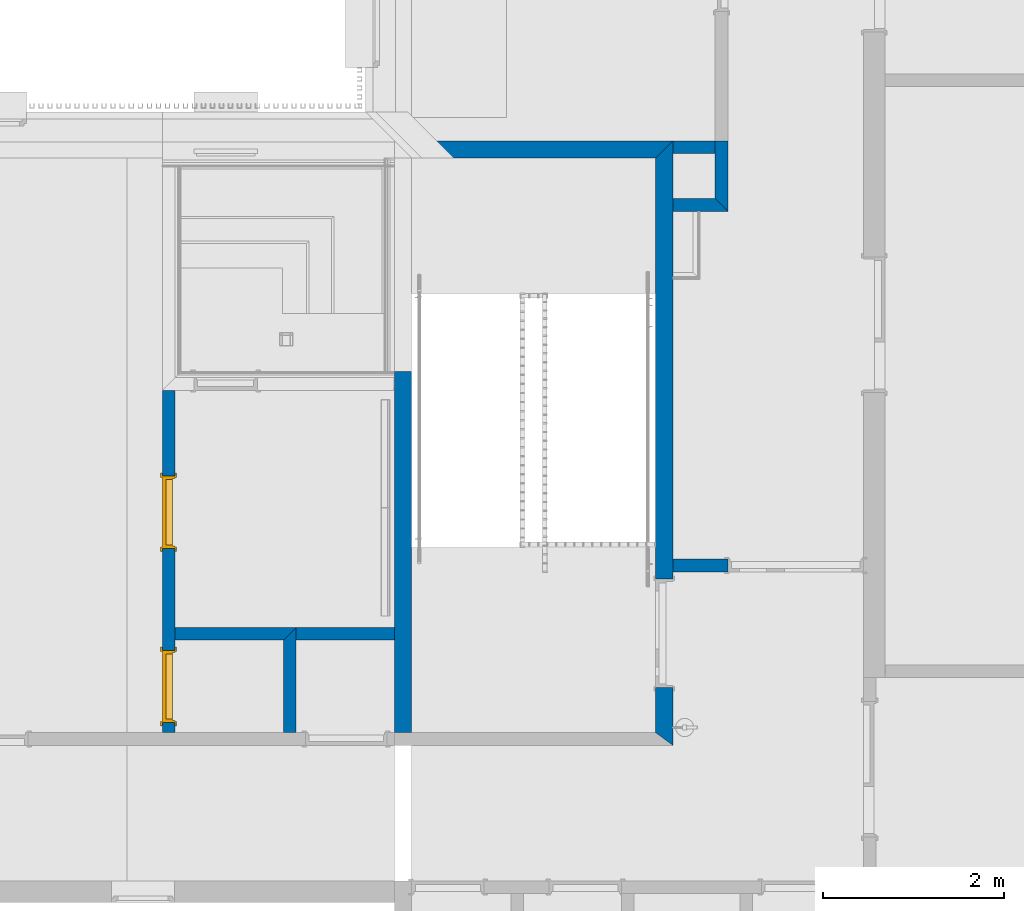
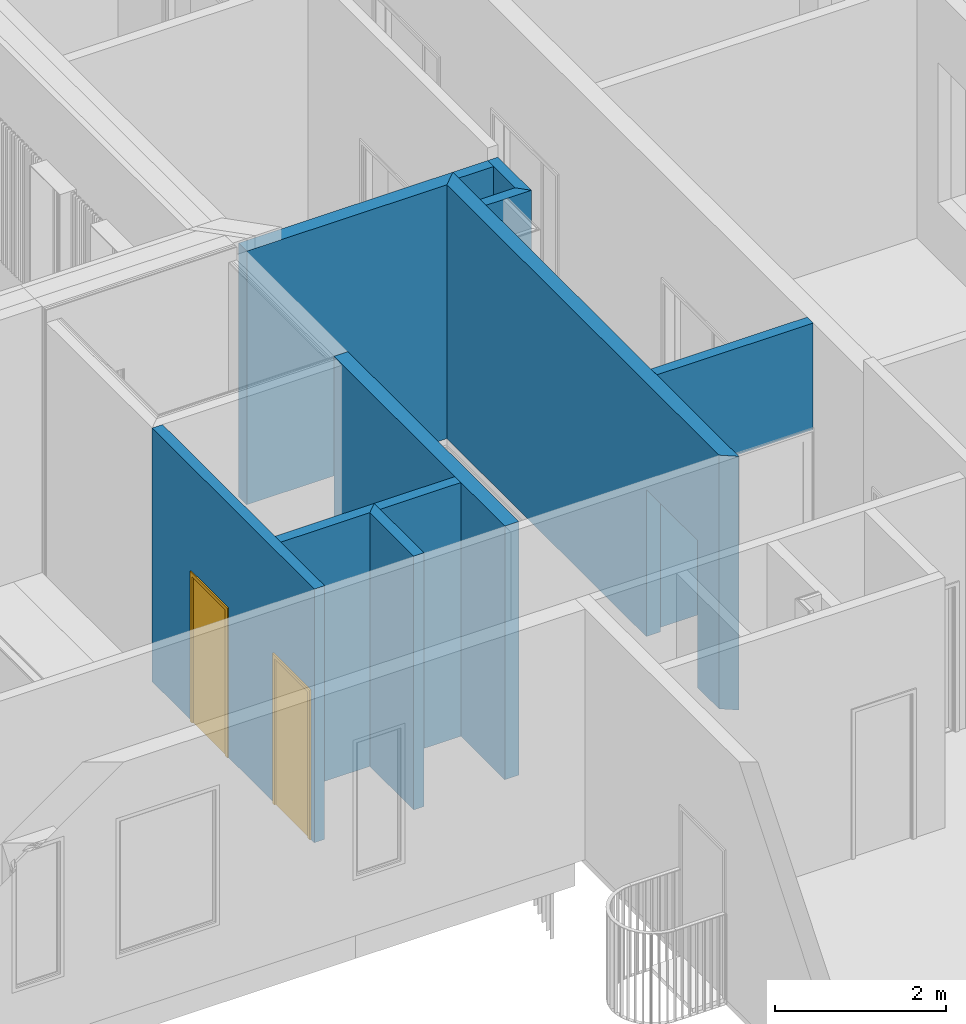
# One storey, part 11 of 100: 11 walls, 2 doors, 4 openings.
"""IFC2X3 building model written with IfcOpenShell, lengths in millimetres."""

from ifc_helpers import new_model, entity, si_unit, converted_unit, derived_unit, money_unit, direction, frame, origin_with_axes, origin_2d_with_axis, place, context, subcontext, project, spatial, polyline, rectangle, outline, extrude, faceted_brep, source, transform, mapped, material, layer, layer_set, layer_usage, type_object, element, fill, save


model = new_model("IFC2X3")

# Units and contexts
model_context = context("Model", 3, precision=0.01, world=origin_with_axes(), true_north=direction((0.0, 1.0)))
body_context = subcontext(model_context, "Body", "Model", "MODEL_VIEW")
ifc_project = project(units=[si_unit("LENGTHUNIT", "METRE", prefix="MILLI"), si_unit("AREAUNIT", "SQUARE_METRE"), si_unit("VOLUMEUNIT", "CUBIC_METRE"), converted_unit("PLANEANGLEUNIT", "DEGREE", entity("IfcPlaneAngleMeasure", 0.0174532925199), si_unit("PLANEANGLEUNIT", "RADIAN"), dimensions=[0, 0, 0, 0, 0, 0, 0]), si_unit("SOLIDANGLEUNIT", "STERADIAN"), money_unit("EUR"), converted_unit("TIMEUNIT", "Year", entity("IfcTimeMeasure", 31556926.0), si_unit("TIMEUNIT", "SECOND"), dimensions=[0, 0, 1, 0, 0, 0, 0]), si_unit("MASSUNIT", "GRAM", prefix="KILO"), si_unit("THERMODYNAMICTEMPERATUREUNIT", "DEGREE_CELSIUS"), si_unit("LUMINOUSINTENSITYUNIT", "LUMEN"), si_unit("ENERGYUNIT", "JOULE", prefix="MEGA"), derived_unit("THERMALCONDUCTANCEUNIT", [(si_unit("POWERUNIT", "WATT"), 1), (si_unit("LENGTHUNIT", "METRE"), -1), (si_unit("THERMODYNAMICTEMPERATUREUNIT", "KELVIN"), -1)]), derived_unit("SPECIFICHEATCAPACITYUNIT", [(si_unit("ENERGYUNIT", "JOULE"), 1), (si_unit("MASSUNIT", "GRAM", prefix="KILO"), -1), (si_unit("THERMODYNAMICTEMPERATUREUNIT", "KELVIN"), -1)]), derived_unit("MASSDENSITYUNIT", [(si_unit("MASSUNIT", "GRAM", prefix="KILO"), 1), (si_unit("VOLUMEUNIT", "CUBIC_METRE"), -1)])], contexts=[model_context])

# Site, building, storey
site_placement = place(None, origin_with_axes())
site = spatial("IfcSite", under=ifc_project, at=site_placement, Name="Politse- ja Piirivalveameti ning Päästeameti ühishoone", CompositionType="ELEMENT")
building_placement = place(site_placement, origin_with_axes())
building = spatial("IfcBuilding", under=site, at=building_placement, Name="Politse- ja Piirivalveameti ning Päästeameti ühishoone", CompositionType="ELEMENT")
storey_placement = place(building_placement, frame((0.0, 0.0, 3800.0), z_axis=(0.0, 0.0, 1.0), x_axis=(1.0, 0.0, 0.0)))
storey = spatial("IfcBuildingStorey", under=building, at=storey_placement, Name="Teine korrus", CompositionType="ELEMENT", Elevation=3800.0)

# Wall, opening
ifc_material = material(Name="KON-05_Betoon Plokk - Konstuktsioon")
ifc_layer_1 = layer(ifc_material, 190.0, ventilated="UNKNOWN")
ifc_layer_set_1 = layer_set([ifc_layer_1], Name="SS-03_Sisesein 190")
ifc_layer_usage_1 = layer_usage(ifc_layer_set_1, "AXIS2", "POSITIVE", 0.0)
wall_type_1 = type_object("IfcWallType", Name="SS-03_Sisesein 190 190", PredefinedType="NOTDEFINED")
wall_1_placement = place(storey_placement, frame((63050.557259, 14500.0421528, 0.0), z_axis=(0.0, 0.0, 1.0), x_axis=(0.0, 1.0, 0.0)))
wall_1 = element("IfcWallStandardCase", 1, at=wall_1_placement, inside=storey, type_object=wall_type_1, material=ifc_layer_usage_1, Name="SS-03", context=body_context, shape_type="SweptSolid", body=[
    extrude(outline(polyline([(0.0, 0.0), (6689.9099304, 0.0), (6499.9099304, 190.0), (140.0, 190.0), (0.0, 0.0)])), origin_with_axes(), (0.0, 0.0, 1.0), 3620.0),
])
opening_1_placement = place(wall_1_placement, frame((1238.63263105, 0.0, 0.0), z_axis=(0.0, 0.0, 1.0), x_axis=(1.0, 0.0, 0.0)))
element("IfcOpeningElement", 2, at=opening_1_placement, cuts=wall_1, Name="TU-01-4", context=body_context, shape_type="SweptSolid", body=[
    extrude(rectangle(XDim=1200.0, YDim=2100.0, at=origin_2d_with_axis()), frame((0.0, -190.0, 1050.0), z_axis=(0.0, -1.0, 0.0), x_axis=(-1.0, 0.0, 0.0)), (0.0, 0.0, -1.0), 570.0),
    extrude(rectangle(XDim=1274.0, YDim=2137.0, at=origin_2d_with_axis()), frame((0.0, 0.0, 1068.5), z_axis=(0.0, -1.0, 0.0), x_axis=(-1.0, 0.0, 0.0)), (0.0, 0.0, 1.0), 190.0),
    extrude(rectangle(XDim=1274.0, YDim=2137.0, at=origin_2d_with_axis()), frame((0.0, 190.0, 1068.5), z_axis=(0.0, 1.0, 0.0), x_axis=(-1.0, 0.0, 0.0)), (0.0, 0.0, 1.0), 190.0),
])

# Walls
ifc_layer_usage_2 = layer_usage(ifc_layer_set_1, "AXIS2", "POSITIVE", 0.0)
wall_2_placement = place(storey_placement, frame((60160.5519118, 20999.9520832, 0.0), z_axis=(0.0, 0.0, 1.0), x_axis=(1.0, 0.0, 0.0)))
element("IfcWallStandardCase", 3, at=wall_2_placement, inside=storey, type_object=wall_type_1, material=ifc_layer_usage_2, Name="SS-03", context=body_context, shape_type="SweptSolid", body=[
    extrude(outline(polyline([(0.0, 0.0), (2700.00534722, 0.0), (2890.00534722, 190.0), (0.0, 190.0), (0.0, 0.0)])), origin_with_axes(), (0.0, 0.0, 1.0), 3620.0),
])
ifc_layer_usage_3 = layer_usage(ifc_layer_set_1, "AXIS2", "POSITIVE", -190.0)
wall_3_placement = place(storey_placement, frame((60160.5519118, 18635.0421528, 0.0), z_axis=(0.0, 0.0, 1.0), x_axis=(0.0, -1.0, 0.0)))
element("IfcWallStandardCase", 4, at=wall_3_placement, inside=storey, type_object=wall_type_1, material=ifc_layer_usage_3, Name="SS-03", context=body_context, shape_type="SweptSolid", body=[
    extrude(outline(polyline([(0.0, -190.0), (3995.0, -190.0), (3995.0, 0.0), (0.0, 0.0), (0.0, -190.0)])), origin_with_axes(), (0.0, 0.0, 1.0), 3620.0),
])
ifc_layer_2 = layer(ifc_material, 140.0, ventilated="UNKNOWN")
ifc_layer_set_2 = layer_set([ifc_layer_2], Name="SS-02_Sisesein 140")
ifc_layer_usage_4 = layer_usage(ifc_layer_set_2, "AXIS2", "POSITIVE", 0.0)
wall_type_2 = type_object("IfcWallType", Name="SS-02_Sisesein 140 140", PredefinedType="NOTDEFINED")
wall_4_placement = place(storey_placement, frame((57540.6681388, 15664.418535, 0.0), z_axis=(0.0, 0.0, 1.0), x_axis=(0.9999999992, 4.00006399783e-05, 0.0)))
element("IfcWallStandardCase", 5, at=wall_4_placement, inside=storey, type_object=wall_type_2, material=ifc_layer_usage_4, Name="SS-02", context=body_context, shape_type="SweptSolid", body=[
    extrude(outline(polyline([(0.0, 0.0), (1199.93754673, 0.0), (1339.94961249, 140.0), (0.0, 140.0), (0.0, 0.0)])), origin_with_axes(), (0.0, 0.0, 1.0), 3620.0),
])
ifc_layer_usage_5 = layer_usage(ifc_layer_set_2, "AXIS2", "POSITIVE", 0.0)
wall_5_placement = place(storey_placement, frame((58740.6056845, 15664.4665333, 0.0), z_axis=(0.0, 0.0, 1.0), x_axis=(-4.61796624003e-05, -0.999999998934, 0.0)))
element("IfcWallStandardCase", 6, at=wall_5_placement, inside=storey, type_object=wall_type_2, material=ifc_layer_usage_5, Name="SS-02", context=body_context, shape_type="SweptSolid", body=[
    extrude(outline(polyline([(0.0, 0.0), (1024.4243816, 0.0), (1024.41791645, 140.0), (-140.012065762, 140.0), (0.0, 0.0)])), origin_with_axes(), (0.0, 0.0, 1.0), 3620.0),
])
ifc_layer_usage_6 = layer_usage(ifc_layer_set_2, "AXIS2", "POSITIVE", 0.0)
wall_6_placement = place(storey_placement, frame((63660.557259, 20409.9520832, 0.0), z_axis=(0.0, 0.0, 1.0), x_axis=(0.0, 1.0, 0.0)))
element("IfcWallStandardCase", 7, at=wall_6_placement, inside=storey, type_object=wall_type_2, material=ifc_layer_usage_6, Name="SS-02", context=body_context, shape_type="SweptSolid", body=[
    extrude(outline(polyline([(0.0, 0.0), (780.0, 0.0), (780.0, 140.0), (140.0, 140.0), (0.0, 0.0)])), origin_with_axes(), (0.0, 0.0, 1.0), 3620.0),
])

# Wall, opening
ifc_layer_usage_7 = layer_usage(ifc_layer_set_2, "AXIS2", "POSITIVE", 0.0)
wall_7_placement = place(storey_placement, frame((63050.557259, 16419.9520832, 0.0), z_axis=(0.0, 0.0, 1.0), x_axis=(1.0, 0.0, 0.0)))
wall_7 = element("IfcWallStandardCase", 8, at=wall_7_placement, inside=storey, type_object=wall_type_2, material=ifc_layer_usage_7, Name="SS-02", context=body_context, shape_type="SweptSolid", body=[
    extrude(outline(polyline([(0.0, 0.0), (2110.00229167, 0.0), (2110.00229167, 140.0), (0.0, 140.0), (0.0, 0.0)])), origin_with_axes(), (0.0, 0.0, 1.0), 3620.0),
])
opening_2_placement = place(wall_7_placement, frame((1360.00229167, 0.0, 0.0), z_axis=(0.0, 0.0, 1.0), x_axis=(1.0, 0.0, 0.0)))
element("IfcOpeningElement", 9, at=opening_2_placement, cuts=wall_7, Name="SU-01-9", context=body_context, shape_type="SweptSolid", body=[
    extrude(rectangle(XDim=1500.0, YDim=2100.0, at=origin_2d_with_axis()), frame((0.0, 140.0, 1050.0), z_axis=(0.0, -1.0, 0.0), x_axis=(-1.0, 0.0, 0.0)), (0.0, 0.0, 1.0), 420.0),
    extrude(rectangle(XDim=1574.0, YDim=2137.0, at=origin_2d_with_axis()), frame((0.0, 140.0, 1068.5), z_axis=(0.0, -1.0, 0.0), x_axis=(-1.0, 0.0, 0.0)), (0.0, 0.0, -1.0), 140.0),
    extrude(rectangle(XDim=1574.0, YDim=2137.0, at=origin_2d_with_axis()), frame((0.0, 0.0, 1068.5), z_axis=(0.0, 1.0, 0.0), x_axis=(-1.0, 0.0, 0.0)), (0.0, 0.0, -1.0), 140.0),
])

# Walls
ifc_layer_usage_8 = layer_usage(ifc_layer_set_2, "AXIS2", "POSITIVE", 0.0)
wall_8_placement = place(storey_placement, frame((63050.557259, 21049.9520832, 0.0), z_axis=(0.0, 0.0, 1.0), x_axis=(1.0, 0.0, 0.0)))
element("IfcWallStandardCase", 10, at=wall_8_placement, inside=storey, type_object=wall_type_2, material=ifc_layer_usage_8, Name="SS-02", context=body_context, shape_type="SweptSolid", body=[
    extrude(outline(polyline([(0.0, 0.0), (470.0, 0.0), (470.0, 140.0), (0.0, 140.0), (0.0, 0.0)])), origin_with_axes(), (0.0, 0.0, 1.0), 3620.0),
])
ifc_layer_usage_9 = layer_usage(ifc_layer_set_2, "AXIS2", "POSITIVE", 0.0)
wall_9_placement = place(storey_placement, frame((63050.557259, 20409.9520832, 0.0), z_axis=(0.0, 0.0, 1.0), x_axis=(1.0, 0.0, 0.0)))
element("IfcWallStandardCase", 11, at=wall_9_placement, inside=storey, type_object=wall_type_2, material=ifc_layer_usage_9, Name="SS-02", context=body_context, shape_type="SweptSolid", body=[
    extrude(outline(polyline([(0.0, 0.0), (610.0, 0.0), (470.0, 140.0), (0.0, 140.0), (0.0, 0.0)])), origin_with_axes(), (0.0, 0.0, 1.0), 3620.0),
])

# Wall, openings, doors
ifc_layer_usage_10 = layer_usage(ifc_layer_set_2, "AXIS2", "NEGATIVE", 0.0)
wall_10_placement = place(storey_placement, frame((57540.5575121, 18430.0421528, 0.0), z_axis=(0.0, 0.0, 1.0), x_axis=(4.000063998e-05, -0.9999999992, 0.0)))
wall_10 = element("IfcWallStandardCase", 12, at=wall_10_placement, inside=storey, type_object=wall_type_2, material=ifc_layer_usage_10, Name="SS-02", context=body_context, shape_type="SweptSolid", body=[
    extrude(outline(polyline([(-0.00560008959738, -140.0), (3789.99440294, -140.0), (3790.00000303, 0.0), (0.0, 0.0), (-0.00560008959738, -140.0)])), origin_with_axes(), (0.0, 0.0, 1.0), 3620.0),
])
opening_3_placement = place(wall_10_placement, frame((3277.80516112, 0.0, 0.0), z_axis=(0.0, 0.0, 1.0), x_axis=(1.0, 0.0, 0.0)))
opening_3 = element("IfcOpeningElement", 13, at=opening_3_placement, cuts=wall_10, Name="SU-02-1", context=body_context, shape_type="SweptSolid", body=[
    extrude(rectangle(XDim=800.0, YDim=2100.0, at=origin_2d_with_axis()), frame((0.0, 140.0, 1050.0), z_axis=(0.0, 1.0, 0.0), x_axis=(1.0, 0.0, 0.0)), (0.0, 0.0, -1.0), 420.0),
    extrude(rectangle(XDim=874.0, YDim=2137.0, at=origin_2d_with_axis()), frame((0.0, 0.0, 1068.5), z_axis=(0.0, 1.0, 0.0), x_axis=(1.0, 0.0, 0.0)), (0.0, 0.0, 1.0), 140.0),
    extrude(rectangle(XDim=874.0, YDim=2137.0, at=origin_2d_with_axis()), frame((0.0, -140.0, 1068.5), z_axis=(0.0, -1.0, 0.0), x_axis=(1.0, 0.0, 0.0)), (0.0, 0.0, 1.0), 140.0),
])
opening_4_placement = place(wall_10_placement, frame((1349.99239338, 0.0, 0.0), z_axis=(0.0, 0.0, 1.0), x_axis=(1.0, 0.0, 0.0)))
opening_4 = element("IfcOpeningElement", 14, at=opening_4_placement, cuts=wall_10, Name="SU-01-5", context=body_context, shape_type="SweptSolid", body=[
    extrude(rectangle(XDim=800.0, YDim=2100.0, at=origin_2d_with_axis()), frame((0.0, 140.0, 1050.0), z_axis=(0.0, -1.0, 0.0), x_axis=(-1.0, 0.0, 0.0)), (0.0, 0.0, 1.0), 420.0),
    extrude(rectangle(XDim=874.0, YDim=2137.0, at=origin_2d_with_axis()), frame((0.0, 0.0, 1068.5), z_axis=(0.0, -1.0, 0.0), x_axis=(-1.0, 0.0, 0.0)), (0.0, 0.0, -1.0), 140.0),
    extrude(rectangle(XDim=874.0, YDim=2137.0, at=origin_2d_with_axis()), frame((0.0, -140.0, 1068.5), z_axis=(0.0, 1.0, 0.0), x_axis=(-1.0, 0.0, 0.0)), (0.0, 0.0, -1.0), 140.0),
])
door_style_1 = type_object("IfcDoorStyle", Name="Door 23", ConstructionType="NOTDEFINED", OperationType="SINGLE_SWING_RIGHT", ParameterTakesPrecedence=False, Sizeable=False)
shared_shape_1 = source(origin_with_axes(), body_context, "Body", "Brep", [
    faceted_brep([(372.0, -40.0, 0.0), (372.0, -40.0, 12.0), (360.0, -40.0, 12.0), (360.0, -40.0, 0.0), (-372.0, -40.0, 0.0), (-372.0, -40.0, 12.0), (-360.0, -40.0, 12.0), (-360.0, -115.0, 12.0), (360.0, -115.0, 12.0), (360.0, -115.0, 0.0), (-360.0, -115.0, 0.0), (-360.0, -40.0, 0.0)], [[[0, 1, 2, 3]], [[4, 5, 1, 0]], [[1, 5, 6, 7, 8, 2]], [[3, 2, 8, 9]], [[0, 3, 9, 10, 11, 4]], [[11, 6, 5, 4]], [[10, 7, 6, 11]], [[9, 8, 7, 10]]]),
    faceted_brep([(-400.0, -115.0, 0.0), (-375.0, -115.0, 0.0), (-375.0, -140.0, 0.0), (-400.0, -140.0, 0.0), (-400.0, -115.0, 2100.0), (-375.0, -115.0, 2075.0), (-375.0, -140.0, 2075.0), (-400.0, -140.0, 2100.0)], [[[0, 1, 2, 3]], [[0, 4, 5, 1]], [[1, 5, 6, 2]], [[3, 2, 6, 7]], [[4, 0, 3, 7]], [[5, 4, 7, 6]]]),
    faceted_brep([(400.0, -115.0, 2100.0), (375.0, -115.0, 2075.0), (375.0, -140.0, 2075.0), (400.0, -140.0, 2100.0), (400.0, -115.0, 0.0), (375.0, -115.0, 0.0), (375.0, -140.0, 0.0), (400.0, -140.0, 0.0)], [[[0, 1, 2, 3]], [[0, 4, 5, 1]], [[1, 5, 6, 2]], [[3, 2, 6, 7]], [[4, 0, 3, 7]], [[5, 4, 7, 6]]]),
    faceted_brep([(-375.0, -115.0, 2075.0), (375.0, -115.0, 2075.0), (375.0, -140.0, 2075.0), (-375.0, -140.0, 2075.0), (-400.0, -115.0, 2100.0), (400.0, -115.0, 2100.0), (400.0, -140.0, 2100.0), (-400.0, -140.0, 2100.0)], [[[0, 1, 2, 3]], [[0, 4, 5, 1]], [[1, 5, 6, 2]], [[3, 2, 6, 7]], [[4, 0, 3, 7]], [[5, 4, 7, 6]]]),
    faceted_brep([(-437.0, -159.0, 0.0), (-437.0, -140.0, 0.0), (-387.0, -140.0, 0.0), (-387.0, -159.0, 0.0), (-437.0, -159.0, 2137.0), (-437.0, -140.0, 2137.0), (-387.0, -140.0, 2087.0), (-387.0, -159.0, 2087.0)], [[[0, 1, 2, 3]], [[4, 5, 1, 0]], [[1, 5, 6, 2]], [[3, 2, 6, 7]], [[0, 3, 7, 4]], [[7, 6, 5, 4]]]),
    faceted_brep([(437.0, -159.0, 2137.0), (437.0, -140.0, 2137.0), (387.0, -140.0, 2087.0), (387.0, -159.0, 2087.0), (437.0, -159.0, 0.0), (437.0, -140.0, 0.0), (387.0, -140.0, 0.0), (387.0, -159.0, 0.0)], [[[0, 1, 2, 3]], [[4, 5, 1, 0]], [[1, 5, 6, 2]], [[3, 2, 6, 7]], [[0, 3, 7, 4]], [[7, 6, 5, 4]]]),
    faceted_brep([(-437.0, -159.0, 2137.0), (-437.0, -140.0, 2137.0), (-387.0, -140.0, 2087.0), (-387.0, -159.0, 2087.0), (437.0, -159.0, 2137.0), (437.0, -140.0, 2137.0), (387.0, -140.0, 2087.0), (387.0, -159.0, 2087.0)], [[[0, 1, 2, 3]], [[4, 5, 1, 0]], [[1, 5, 6, 2]], [[3, 2, 6, 7]], [[0, 3, 7, 4]], [[7, 6, 5, 4]]]),
    faceted_brep([(-437.0, 19.0, 0.0), (-387.0, 19.0, 0.0), (-387.0, 0.0, 0.0), (-437.0, 0.0, 0.0), (-437.0, 19.0, 2137.0), (-387.0, 19.0, 2087.0), (-387.0, 0.0, 2087.0), (-437.0, 0.0, 2137.0)], [[[0, 1, 2, 3]], [[0, 4, 5, 1]], [[1, 5, 6, 2]], [[3, 2, 6, 7]], [[4, 0, 3, 7]], [[5, 4, 7, 6]]]),
    faceted_brep([(437.0, 19.0, 2137.0), (387.0, 19.0, 2087.0), (387.0, 0.0, 2087.0), (437.0, 0.0, 2137.0), (437.0, 19.0, 0.0), (387.0, 19.0, 0.0), (387.0, 0.0, 0.0), (437.0, 0.0, 0.0)], [[[0, 1, 2, 3]], [[0, 4, 5, 1]], [[1, 5, 6, 2]], [[3, 2, 6, 7]], [[4, 0, 3, 7]], [[5, 4, 7, 6]]]),
    faceted_brep([(-437.0, 19.0, 2137.0), (-387.0, 19.0, 2087.0), (-387.0, 0.0, 2087.0), (-437.0, 0.0, 2137.0), (437.0, 19.0, 2137.0), (387.0, 19.0, 2087.0), (387.0, 0.0, 2087.0), (437.0, 0.0, 2137.0)], [[[0, 1, 2, 3]], [[0, 4, 5, 1]], [[1, 5, 6, 2]], [[3, 2, 6, 7]], [[4, 0, 3, 7]], [[5, 4, 7, 6]]]),
    faceted_brep([(-360.0, -40.0, 0.0), (-360.0, -40.0, 2060.0), (-360.0, -115.0, 2060.0), (-360.0, -115.0, 0.0), (-372.0, -40.0, 2060.0), (-372.0, -40.0, 0.0), (-372.0, 0.0, 2060.0), (-400.0, 0.0, 2060.0), (-400.0, -115.0, 2060.0), (-400.0, -115.0, 0.0), (-400.0, 0.0, 0.0), (-372.0, 0.0, 0.0)], [[[0, 1, 2, 3]], [[4, 1, 0, 5]], [[4, 6, 7, 8, 2, 1]], [[3, 2, 8, 9]], [[5, 0, 3, 9, 10, 11]], [[6, 4, 5, 11]], [[6, 11, 10, 7]], [[10, 9, 8, 7]]]),
    faceted_brep([(372.0, -40.0, 2060.0), (360.0, -40.0, 2060.0), (360.0, -115.0, 2060.0), (400.0, -115.0, 2060.0), (400.0, 0.0, 2060.0), (372.0, 0.0, 2060.0), (372.0, -40.0, 0.0), (360.0, -40.0, 0.0), (360.0, -115.0, 0.0), (400.0, -115.0, 0.0), (400.0, 0.0, 0.0), (372.0, 0.0, 0.0)], [[[0, 1, 2, 3, 4, 5]], [[1, 0, 6, 7]], [[1, 7, 8, 2]], [[3, 2, 8, 9]], [[4, 3, 9, 10]], [[11, 5, 4, 10]], [[0, 5, 11, 6]], [[6, 11, 10, 9, 8, 7]]]),
    faceted_brep([(-372.0, 0.0, 2072.0), (-372.0, 0.0, 2060.0), (-400.0, 0.0, 2060.0), (-400.0, 0.0, 2100.0), (400.0, 0.0, 2100.0), (400.0, 0.0, 2060.0), (372.0, 0.0, 2060.0), (372.0, 0.0, 2072.0), (-372.0, -40.0, 2072.0), (-372.0, -40.0, 2060.0), (-360.0, -40.0, 2060.0), (-360.0, -115.0, 2060.0), (-400.0, -115.0, 2060.0), (-400.0, -115.0, 2100.0), (400.0, -115.0, 2100.0), (400.0, -115.0, 2060.0), (372.0, -40.0, 2060.0), (360.0, -115.0, 2060.0), (360.0, -40.0, 2060.0), (372.0, -40.0, 2072.0)], [[[0, 1, 2, 3, 4, 5, 6, 7]], [[1, 0, 8, 9]], [[9, 10, 11, 12, 2, 1]], [[2, 12, 13, 3]], [[3, 13, 14, 4]], [[4, 14, 15, 5]], [[16, 6, 5, 15, 17, 18]], [[7, 6, 16, 19]], [[0, 7, 19, 8]], [[16, 18, 10, 9, 8, 19]], [[10, 18, 17, 11]], [[17, 15, 14, 13, 12, 11]]]),
    faceted_brep([(372.0, 0.0, 0.0), (372.0, -40.0, 0.0), (-372.0, -40.0, 0.0), (-372.0, 0.0, 0.0), (372.0, 0.0, 2072.0), (372.0, -40.0, 2072.0), (-372.0, -40.0, 2072.0), (-372.0, 0.0, 2072.0)], [[[0, 1, 2, 3]], [[4, 5, 1, 0]], [[1, 5, 6, 2]], [[3, 2, 6, 7]], [[0, 3, 7, 4]], [[7, 6, 5, 4]]]),
])
door_1_placement = place(opening_4_placement, frame((400.0, 0.0, 0.0), z_axis=(0.0, 0.0, 1.0), x_axis=(-1.0, 0.0, 0.0)))
door_1 = element("IfcDoor", 15, at=door_1_placement, inside=storey, type_object=door_style_1, Name="SU-01-5", ObjectType="DOOR", OverallHeight=2100.0, OverallWidth=800.0, context=body_context, shape_type="MappedRepresentation", body=[
    mapped(shared_shape_1, transform((400.0, 140.0, 0.0))),
])
fill(opening_4, door_1)
door_style_2 = type_object("IfcDoorStyle", Name="Door 23", ConstructionType="NOTDEFINED", OperationType="SINGLE_SWING_LEFT", ParameterTakesPrecedence=False, Sizeable=False)
shared_shape_2 = source(origin_with_axes(), body_context, "Body", "Brep", [
    faceted_brep([(-372.0, -40.0, 0.0), (-360.0, -40.0, 0.0), (-360.0, -40.0, 12.0), (-372.0, -40.0, 12.0), (372.0, -40.0, 0.0), (360.0, -40.0, 0.0), (360.0, -115.0, 0.0), (-360.0, -115.0, 0.0), (-360.0, -115.0, 12.0), (360.0, -115.0, 12.0), (360.0, -40.0, 12.0), (372.0, -40.0, 12.0)], [[[0, 1, 2, 3]], [[0, 4, 5, 6, 7, 1]], [[1, 7, 8, 2]], [[3, 2, 8, 9, 10, 11]], [[4, 0, 3, 11]], [[5, 4, 11, 10]], [[6, 5, 10, 9]], [[7, 6, 9, 8]]]),
    faceted_brep([(400.0, -115.0, 0.0), (400.0, -140.0, 0.0), (375.0, -140.0, 0.0), (375.0, -115.0, 0.0), (400.0, -115.0, 2100.0), (400.0, -140.0, 2100.0), (375.0, -140.0, 2075.0), (375.0, -115.0, 2075.0)], [[[0, 1, 2, 3]], [[4, 5, 1, 0]], [[1, 5, 6, 2]], [[3, 2, 6, 7]], [[0, 3, 7, 4]], [[7, 6, 5, 4]]]),
    faceted_brep([(-400.0, -115.0, 2100.0), (-400.0, -140.0, 2100.0), (-375.0, -140.0, 2075.0), (-375.0, -115.0, 2075.0), (-400.0, -115.0, 0.0), (-400.0, -140.0, 0.0), (-375.0, -140.0, 0.0), (-375.0, -115.0, 0.0)], [[[0, 1, 2, 3]], [[4, 5, 1, 0]], [[1, 5, 6, 2]], [[3, 2, 6, 7]], [[0, 3, 7, 4]], [[7, 6, 5, 4]]]),
    faceted_brep([(375.0, -115.0, 2075.0), (375.0, -140.0, 2075.0), (-375.0, -140.0, 2075.0), (-375.0, -115.0, 2075.0), (400.0, -115.0, 2100.0), (400.0, -140.0, 2100.0), (-400.0, -140.0, 2100.0), (-400.0, -115.0, 2100.0)], [[[0, 1, 2, 3]], [[4, 5, 1, 0]], [[1, 5, 6, 2]], [[3, 2, 6, 7]], [[0, 3, 7, 4]], [[7, 6, 5, 4]]]),
    faceted_brep([(437.0, -159.0, 0.0), (387.0, -159.0, 0.0), (387.0, -140.0, 0.0), (437.0, -140.0, 0.0), (437.0, -159.0, 2137.0), (387.0, -159.0, 2087.0), (387.0, -140.0, 2087.0), (437.0, -140.0, 2137.0)], [[[0, 1, 2, 3]], [[0, 4, 5, 1]], [[1, 5, 6, 2]], [[3, 2, 6, 7]], [[4, 0, 3, 7]], [[5, 4, 7, 6]]]),
    faceted_brep([(-437.0, -159.0, 2137.0), (-387.0, -159.0, 2087.0), (-387.0, -140.0, 2087.0), (-437.0, -140.0, 2137.0), (-437.0, -159.0, 0.0), (-387.0, -159.0, 0.0), (-387.0, -140.0, 0.0), (-437.0, -140.0, 0.0)], [[[0, 1, 2, 3]], [[0, 4, 5, 1]], [[1, 5, 6, 2]], [[3, 2, 6, 7]], [[4, 0, 3, 7]], [[5, 4, 7, 6]]]),
    faceted_brep([(437.0, -159.0, 2137.0), (387.0, -159.0, 2087.0), (387.0, -140.0, 2087.0), (437.0, -140.0, 2137.0), (-437.0, -159.0, 2137.0), (-387.0, -159.0, 2087.0), (-387.0, -140.0, 2087.0), (-437.0, -140.0, 2137.0)], [[[0, 1, 2, 3]], [[0, 4, 5, 1]], [[1, 5, 6, 2]], [[3, 2, 6, 7]], [[4, 0, 3, 7]], [[5, 4, 7, 6]]]),
    faceted_brep([(437.0, 19.0, 0.0), (437.0, 0.0, 0.0), (387.0, 0.0, 0.0), (387.0, 19.0, 0.0), (437.0, 19.0, 2137.0), (437.0, 0.0, 2137.0), (387.0, 0.0, 2087.0), (387.0, 19.0, 2087.0)], [[[0, 1, 2, 3]], [[4, 5, 1, 0]], [[1, 5, 6, 2]], [[3, 2, 6, 7]], [[0, 3, 7, 4]], [[7, 6, 5, 4]]]),
    faceted_brep([(-437.0, 19.0, 2137.0), (-437.0, 0.0, 2137.0), (-387.0, 0.0, 2087.0), (-387.0, 19.0, 2087.0), (-437.0, 19.0, 0.0), (-437.0, 0.0, 0.0), (-387.0, 0.0, 0.0), (-387.0, 19.0, 0.0)], [[[0, 1, 2, 3]], [[4, 5, 1, 0]], [[1, 5, 6, 2]], [[3, 2, 6, 7]], [[0, 3, 7, 4]], [[7, 6, 5, 4]]]),
    faceted_brep([(437.0, 19.0, 2137.0), (437.0, 0.0, 2137.0), (387.0, 0.0, 2087.0), (387.0, 19.0, 2087.0), (-437.0, 19.0, 2137.0), (-437.0, 0.0, 2137.0), (-387.0, 0.0, 2087.0), (-387.0, 19.0, 2087.0)], [[[0, 1, 2, 3]], [[4, 5, 1, 0]], [[1, 5, 6, 2]], [[3, 2, 6, 7]], [[0, 3, 7, 4]], [[7, 6, 5, 4]]]),
    faceted_brep([(360.0, -40.0, 0.0), (360.0, -115.0, 0.0), (360.0, -115.0, 2060.0), (360.0, -40.0, 2060.0), (372.0, -40.0, 0.0), (372.0, 0.0, 0.0), (400.0, 0.0, 0.0), (400.0, -115.0, 0.0), (400.0, -115.0, 2060.0), (372.0, -40.0, 2060.0), (400.0, 0.0, 2060.0), (372.0, 0.0, 2060.0)], [[[0, 1, 2, 3]], [[4, 5, 6, 7, 1, 0]], [[1, 7, 8, 2]], [[9, 3, 2, 8, 10, 11]], [[9, 4, 0, 3]], [[11, 5, 4, 9]], [[11, 10, 6, 5]], [[6, 10, 8, 7]]]),
    faceted_brep([(-372.0, -40.0, 2060.0), (-372.0, 0.0, 2060.0), (-400.0, 0.0, 2060.0), (-400.0, -115.0, 2060.0), (-360.0, -115.0, 2060.0), (-360.0, -40.0, 2060.0), (-372.0, -40.0, 0.0), (-372.0, 0.0, 0.0), (-400.0, 0.0, 0.0), (-400.0, -115.0, 0.0), (-360.0, -115.0, 0.0), (-360.0, -40.0, 0.0)], [[[0, 1, 2, 3, 4, 5]], [[0, 6, 7, 1]], [[7, 8, 2, 1]], [[2, 8, 9, 3]], [[3, 9, 10, 4]], [[5, 4, 10, 11]], [[5, 11, 6, 0]], [[6, 11, 10, 9, 8, 7]]]),
    faceted_brep([(372.0, 0.0, 2072.0), (-372.0, 0.0, 2072.0), (-372.0, 0.0, 2060.0), (-400.0, 0.0, 2060.0), (-400.0, 0.0, 2100.0), (400.0, 0.0, 2100.0), (400.0, 0.0, 2060.0), (372.0, 0.0, 2060.0), (372.0, -40.0, 2072.0), (-372.0, -40.0, 2072.0), (-372.0, -40.0, 2060.0), (-360.0, -40.0, 2060.0), (-360.0, -115.0, 2060.0), (-400.0, -115.0, 2060.0), (-400.0, -115.0, 2100.0), (400.0, -115.0, 2100.0), (400.0, -115.0, 2060.0), (372.0, -40.0, 2060.0), (360.0, -115.0, 2060.0), (360.0, -40.0, 2060.0)], [[[0, 1, 2, 3, 4, 5, 6, 7]], [[0, 8, 9, 1]], [[1, 9, 10, 2]], [[10, 11, 12, 13, 3, 2]], [[4, 3, 13, 14]], [[5, 4, 14, 15]], [[6, 5, 15, 16]], [[17, 7, 6, 16, 18, 19]], [[7, 17, 8, 0]], [[10, 9, 8, 17, 19, 11]], [[19, 18, 12, 11]], [[12, 18, 16, 15, 14, 13]]]),
    faceted_brep([(-372.0, 0.0, 0.0), (372.0, 0.0, 0.0), (372.0, -40.0, 0.0), (-372.0, -40.0, 0.0), (-372.0, 0.0, 2072.0), (372.0, 0.0, 2072.0), (372.0, -40.0, 2072.0), (-372.0, -40.0, 2072.0)], [[[0, 1, 2, 3]], [[0, 4, 5, 1]], [[1, 5, 6, 2]], [[3, 2, 6, 7]], [[4, 0, 3, 7]], [[5, 4, 7, 6]]]),
])
door_2_placement = place(opening_3_placement, frame((400.0, 0.0, 0.0), z_axis=(0.0, 0.0, 1.0), x_axis=(-1.0, 0.0, 0.0)))
door_2 = element("IfcDoor", 16, at=door_2_placement, inside=storey, type_object=door_style_2, Name="SU-02-1", ObjectType="DOOR", OverallHeight=2100.0, OverallWidth=800.0, context=body_context, shape_type="MappedRepresentation", body=[
    mapped(shared_shape_2, transform((400.0, 140.0, 0.0))),
])
fill(opening_3, door_2)

# Wall
ifc_layer_usage_11 = layer_usage(ifc_layer_set_2, "AXIS2", "POSITIVE", 0.0)
wall_11_placement = place(storey_placement, frame((58740.6056845, 15664.4665333, 0.0), z_axis=(0.0, 0.0, 1.0), x_axis=(0.9999999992, 4.00006399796e-05, 0.0)))
element("IfcWallStandardCase", 17, at=wall_11_placement, inside=storey, type_object=wall_type_2, material=ifc_layer_usage_11, Name="SS-02", context=body_context, shape_type="SweptSolid", body=[
    extrude(outline(polyline([(140.00000052, 0.0), (1229.94622826, 0.0), (1229.95182835, 140.0), (140.012065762, 140.0), (140.00000052, 0.0)])), origin_with_axes(), (0.0, 0.0, 1.0), 3620.0),
])

save(model, "model.ifc")
